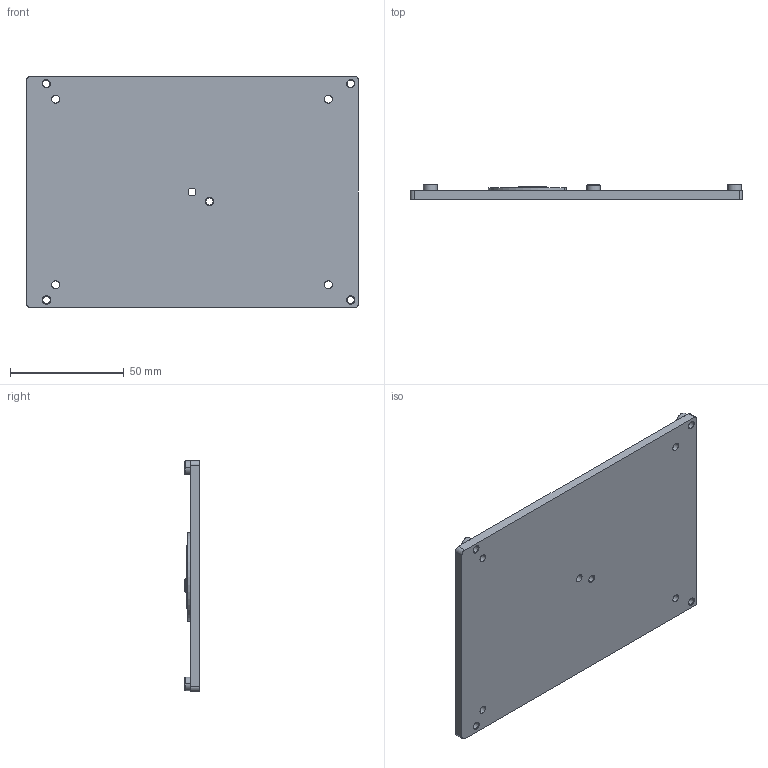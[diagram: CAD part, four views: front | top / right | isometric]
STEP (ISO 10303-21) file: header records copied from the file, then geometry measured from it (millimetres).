
FILE_DESCRIPTION((''),'2;1');
FILE_NAME('ECM-WHL_HEATSPREADER-1_ASM','2019-10-09T14:27:31',('jamie_liao'),(''),'CREO PARAMETRIC BY PTC INC, 2017110','CREO PARAMETRIC BY PTC INC, 2017110','');
FILE_SCHEMA(('CONFIG_CONTROL_DESIGN','GEOMETRIC_VALIDATION_PROPERTIES_MIM'));
Length unit declared in the file: millimetre
Products named in the file (4): ECM-WHL_HEATSPREADER-1; CU_39_FOR_SPREADER; THERMAL_PAD_XR-HE-12X28X0_5T; ECM-WHL_HEATSPREADER-1_ASM
Assembly tree (3 placements, depth 2):
  ECM-WHL_HEATSPREADER-1_ASM
    ECM-WHL_HEATSPREADER-1
    CU_39_FOR_SPREADER
    THERMAL_PAD_XR-HE-12X28X0_5T
Bounding box: 146.05 x 6.5 x 101.6 mm (x, y, z)
Volume: 58377.5 mm3; surface area: 36302 mm2
Topology: 3 solids, 3 shells, 152 faces, 368 edges, 232 vertices
Faces by surface type: plane 58, cylinder 54, cone 40
Entity records: 5895 total; most frequent: DIRECTION 835, CARTESIAN_POINT 769, ORIENTED_EDGE 736, EDGE_CURVE 368, PRESENTATION_STYLE_ASSIGNMENT 364, STYLED_ITEM 358, CURVE_STYLE 356, AXIS2_PLACEMENT_3D 308
